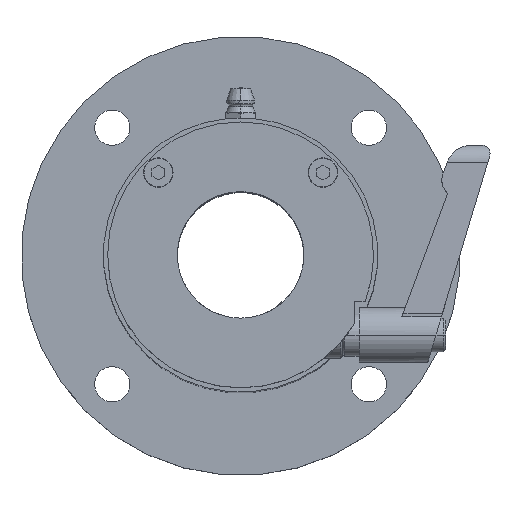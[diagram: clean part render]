
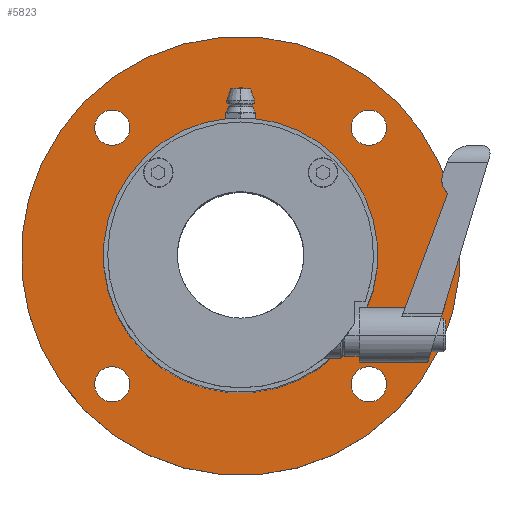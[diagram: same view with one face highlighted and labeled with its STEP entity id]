
A CAD part, top view. The second image highlights one B-rep face of the part: STEP entity #5823.
In plain terms, the highlighted planar face has unit normal (0, 0, 1).
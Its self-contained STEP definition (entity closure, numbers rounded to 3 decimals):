
#119 = DIRECTION ( 'NONE',  ( 0.707, 0.707, 0. ) ) ;
#140 = EDGE_CURVE ( 'NONE', #4776, #2795, #6171, .T. ) ;
#142 = DIRECTION ( 'NONE',  ( 0.707, 0.707, 0. ) ) ;
#346 = DIRECTION ( 'NONE',  ( 0.707, 0.707, 0. ) ) ;
#377 = AXIS2_PLACEMENT_3D ( 'NONE', #6813, #1973, #2674 ) ;
#403 = FACE_BOUND ( 'NONE', #921, .T. ) ;
#654 = EDGE_CURVE ( 'NONE', #7217, #2411, #1972, .T. ) ;
#711 = ORIENTED_EDGE ( 'NONE', *, *, #8009, .T. ) ;
#807 = CARTESIAN_POINT ( 'NONE',  ( 28.972, 27.692, 87.078 ) ) ;
#921 = EDGE_LOOP ( 'NONE', ( #4441, #2468 ) ) ;
#971 = AXIS2_PLACEMENT_3D ( 'NONE', #10404, #3696, #5229 ) ;
#1104 = CARTESIAN_POINT ( 'NONE',  ( 26.541, -35.55, 87.078 ) ) ;
#1156 = ORIENTED_EDGE ( 'NONE', *, *, #3835, .T. ) ;
#1164 = DIRECTION ( 'NONE',  ( 0.707, 0.707, 0. ) ) ;
#1255 = VERTEX_POINT ( 'NONE', #5885 ) ;
#1289 = EDGE_LOOP ( 'NONE', ( #6323, #7309 ) ) ;
#1710 = CARTESIAN_POINT ( 'NONE',  ( 32.464, 25.261, 87.078 ) ) ;
#1913 = CARTESIAN_POINT ( 'NONE',  ( -31.309, 28.223, 87.078 ) ) ;
#1960 = DIRECTION ( 'NONE',  ( 0., 0., -1. ) ) ;
#1972 = CIRCLE ( 'NONE', #7943, 32.5 ) ;
#1973 = DIRECTION ( 'NONE',  ( 0., 0., -1. ) ) ;
#2001 = EDGE_CURVE ( 'NONE', #5100, #1255, #8732, .T. ) ;
#2059 = VERTEX_POINT ( 'NONE', #9299 ) ;
#2411 = VERTEX_POINT ( 'NONE', #3091 ) ;
#2465 = AXIS2_PLACEMENT_3D ( 'NONE', #3529, #3421, #2703 ) ;
#2468 = ORIENTED_EDGE ( 'NONE', *, *, #5961, .T. ) ;
#2527 = DIRECTION ( 'NONE',  ( 0., 0., -1. ) ) ;
#2558 = DIRECTION ( 'NONE',  ( 0., 0., 1. ) ) ;
#2674 = DIRECTION ( 'NONE',  ( -0.707, 0.707, 0. ) ) ;
#2703 = DIRECTION ( 'NONE',  ( 0.707, 0.707, 0. ) ) ;
#2795 = VERTEX_POINT ( 'NONE', #7624 ) ;
#2868 = CARTESIAN_POINT ( 'NONE',  ( -23.884, -25.164, 87.078 ) ) ;
#3091 = CARTESIAN_POINT ( 'NONE',  ( 22.078, 20.798, 87.078 ) ) ;
#3237 = EDGE_CURVE ( 'NONE', #2059, #5755, #5803, .T. ) ;
#3421 = DIRECTION ( 'NONE',  ( 0., 0., -1. ) ) ;
#3445 = EDGE_LOOP ( 'NONE', ( #5431, #711 ) ) ;
#3501 = DIRECTION ( 'NONE',  ( -0.707, 0.707, 0. ) ) ;
#3514 = EDGE_CURVE ( 'NONE', #7858, #4690, #4051, .T. ) ;
#3523 = EDGE_CURVE ( 'NONE', #4690, #7858, #6533, .T. ) ;
#3529 = CARTESIAN_POINT ( 'NONE',  ( -0.903, -2.183, 87.078 ) ) ;
#3684 = CARTESIAN_POINT ( 'NONE',  ( 29.502, -32.589, 87.078 ) ) ;
#3690 = FACE_BOUND ( 'NONE', #1289, .T. ) ;
#3696 = DIRECTION ( 'NONE',  ( 0., 0., -1. ) ) ;
#3823 = AXIS2_PLACEMENT_3D ( 'NONE', #3684, #6048, #6217 ) ;
#3835 = EDGE_CURVE ( 'NONE', #9733, #4804, #4062, .T. ) ;
#4051 = CIRCLE ( 'NONE', #377, 4.188 ) ;
#4062 = CIRCLE ( 'NONE', #4762, 4.188 ) ;
#4076 = EDGE_CURVE ( 'NONE', #5755, #2059, #4522, .T. ) ;
#4077 = EDGE_CURVE ( 'NONE', #4804, #9733, #6285, .T. ) ;
#4229 = AXIS2_PLACEMENT_3D ( 'NONE', #807, #2558, #10199 ) ;
#4441 = ORIENTED_EDGE ( 'NONE', *, *, #2001, .T. ) ;
#4452 = CARTESIAN_POINT ( 'NONE',  ( -0.903, -2.183, 87.078 ) ) ;
#4522 = CIRCLE ( 'NONE', #9645, 52. ) ;
#4613 = DIRECTION ( 'NONE',  ( 0., 0., -1. ) ) ;
#4618 = FACE_BOUND ( 'NONE', #3445, .T. ) ;
#4690 = VERTEX_POINT ( 'NONE', #9265 ) ;
#4762 = AXIS2_PLACEMENT_3D ( 'NONE', #6189, #1960, #10372 ) ;
#4763 = AXIS2_PLACEMENT_3D ( 'NONE', #5249, #8628, #8865 ) ;
#4776 = VERTEX_POINT ( 'NONE', #1710 ) ;
#4804 = VERTEX_POINT ( 'NONE', #8819 ) ;
#4942 = CIRCLE ( 'NONE', #7756, 4.188 ) ;
#5100 = VERTEX_POINT ( 'NONE', #8016 ) ;
#5229 = DIRECTION ( 'NONE',  ( 0.707, -0.707, 0. ) ) ;
#5249 = CARTESIAN_POINT ( 'NONE',  ( 29.502, 28.223, 87.078 ) ) ;
#5326 = DIRECTION ( 'NONE',  ( 0., 0., -1. ) ) ;
#5431 = ORIENTED_EDGE ( 'NONE', *, *, #140, .T. ) ;
#5455 = ORIENTED_EDGE ( 'NONE', *, *, #4076, .F. ) ;
#5504 = CARTESIAN_POINT ( 'NONE',  ( -37.673, -38.953, 87.078 ) ) ;
#5640 = AXIS2_PLACEMENT_3D ( 'NONE', #8657, #5326, #1164 ) ;
#5755 = VERTEX_POINT ( 'NONE', #5504 ) ;
#5803 = CIRCLE ( 'NONE', #5640, 52. ) ;
#5823 = ADVANCED_FACE ( 'NONE', ( #8046, #9550, #3690, #403, #4618, #6391 ), #7044, .T. ) ;
#5885 = CARTESIAN_POINT ( 'NONE',  ( -34.27, 25.261, 87.078 ) ) ;
#5961 = EDGE_CURVE ( 'NONE', #1255, #5100, #4942, .T. ) ;
#5973 = DIRECTION ( 'NONE',  ( 0., 0., -1. ) ) ;
#6048 = DIRECTION ( 'NONE',  ( 0., 0., -1. ) ) ;
#6116 = ORIENTED_EDGE ( 'NONE', *, *, #4077, .T. ) ;
#6171 = CIRCLE ( 'NONE', #4763, 4.188 ) ;
#6189 = CARTESIAN_POINT ( 'NONE',  ( 29.502, -32.589, 87.078 ) ) ;
#6217 = DIRECTION ( 'NONE',  ( -0.707, -0.707, 0. ) ) ;
#6285 = CIRCLE ( 'NONE', #3823, 4.188 ) ;
#6323 = ORIENTED_EDGE ( 'NONE', *, *, #3514, .T. ) ;
#6391 = FACE_BOUND ( 'NONE', #10589, .T. ) ;
#6442 = EDGE_LOOP ( 'NONE', ( #9069, #5455 ) ) ;
#6464 = EDGE_CURVE ( 'NONE', #2411, #7217, #7222, .T. ) ;
#6467 = ORIENTED_EDGE ( 'NONE', *, *, #6464, .T. ) ;
#6533 = CIRCLE ( 'NONE', #7925, 4.188 ) ;
#6668 = CARTESIAN_POINT ( 'NONE',  ( -0.903, -2.183, 87.078 ) ) ;
#6813 = CARTESIAN_POINT ( 'NONE',  ( -31.309, -32.589, 87.078 ) ) ;
#6926 = CARTESIAN_POINT ( 'NONE',  ( -31.309, -32.589, 87.078 ) ) ;
#7027 = ORIENTED_EDGE ( 'NONE', *, *, #654, .T. ) ;
#7044 = PLANE ( 'NONE',  #4229 ) ;
#7217 = VERTEX_POINT ( 'NONE', #2868 ) ;
#7222 = CIRCLE ( 'NONE', #2465, 32.5 ) ;
#7309 = ORIENTED_EDGE ( 'NONE', *, *, #3523, .T. ) ;
#7624 = CARTESIAN_POINT ( 'NONE',  ( 26.541, 31.184, 87.078 ) ) ;
#7756 = AXIS2_PLACEMENT_3D ( 'NONE', #1913, #8806, #8634 ) ;
#7858 = VERTEX_POINT ( 'NONE', #8005 ) ;
#7925 = AXIS2_PLACEMENT_3D ( 'NONE', #6926, #5973, #3501 ) ;
#7943 = AXIS2_PLACEMENT_3D ( 'NONE', #6668, #2527, #119 ) ;
#8005 = CARTESIAN_POINT ( 'NONE',  ( -34.27, -29.627, 87.078 ) ) ;
#8009 = EDGE_CURVE ( 'NONE', #2795, #4776, #9090, .T. ) ;
#8016 = CARTESIAN_POINT ( 'NONE',  ( -28.348, 31.184, 87.078 ) ) ;
#8046 = FACE_OUTER_BOUND ( 'NONE', #6442, .T. ) ;
#8628 = DIRECTION ( 'NONE',  ( 0., 0., -1. ) ) ;
#8634 = DIRECTION ( 'NONE',  ( 0.707, 0.707, 0. ) ) ;
#8657 = CARTESIAN_POINT ( 'NONE',  ( -0.903, -2.183, 87.078 ) ) ;
#8732 = CIRCLE ( 'NONE', #10148, 4.188 ) ;
#8806 = DIRECTION ( 'NONE',  ( 0., 0., -1. ) ) ;
#8815 = EDGE_LOOP ( 'NONE', ( #1156, #6116 ) ) ;
#8819 = CARTESIAN_POINT ( 'NONE',  ( 32.464, -29.627, 87.078 ) ) ;
#8865 = DIRECTION ( 'NONE',  ( 0.707, -0.707, 0. ) ) ;
#9069 = ORIENTED_EDGE ( 'NONE', *, *, #3237, .F. ) ;
#9090 = CIRCLE ( 'NONE', #971, 4.188 ) ;
#9180 = DIRECTION ( 'NONE',  ( 0., 0., -1. ) ) ;
#9239 = CARTESIAN_POINT ( 'NONE',  ( -31.309, 28.223, 87.078 ) ) ;
#9265 = CARTESIAN_POINT ( 'NONE',  ( -28.348, -35.55, 87.078 ) ) ;
#9299 = CARTESIAN_POINT ( 'NONE',  ( 35.866, 34.586, 87.078 ) ) ;
#9550 = FACE_BOUND ( 'NONE', #8815, .T. ) ;
#9645 = AXIS2_PLACEMENT_3D ( 'NONE', #4452, #4613, #346 ) ;
#9733 = VERTEX_POINT ( 'NONE', #1104 ) ;
#10148 = AXIS2_PLACEMENT_3D ( 'NONE', #9239, #9180, #142 ) ;
#10199 = DIRECTION ( 'NONE',  ( 0.707, -0.707, 0. ) ) ;
#10372 = DIRECTION ( 'NONE',  ( -0.707, -0.707, 0. ) ) ;
#10404 = CARTESIAN_POINT ( 'NONE',  ( 29.502, 28.223, 87.078 ) ) ;
#10589 = EDGE_LOOP ( 'NONE', ( #6467, #7027 ) ) ;
